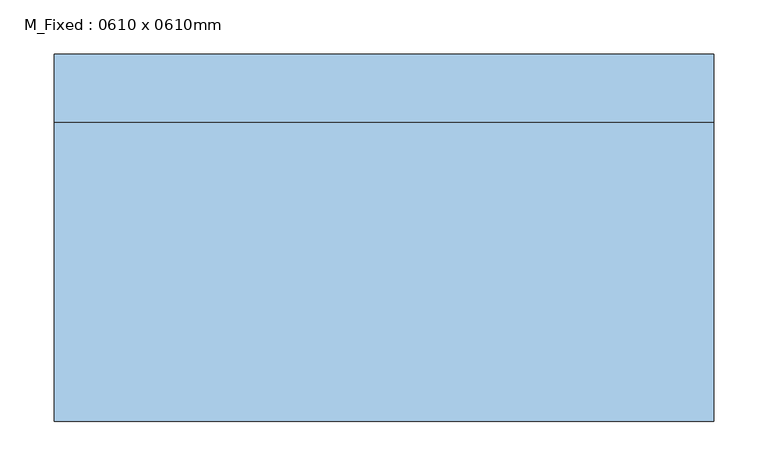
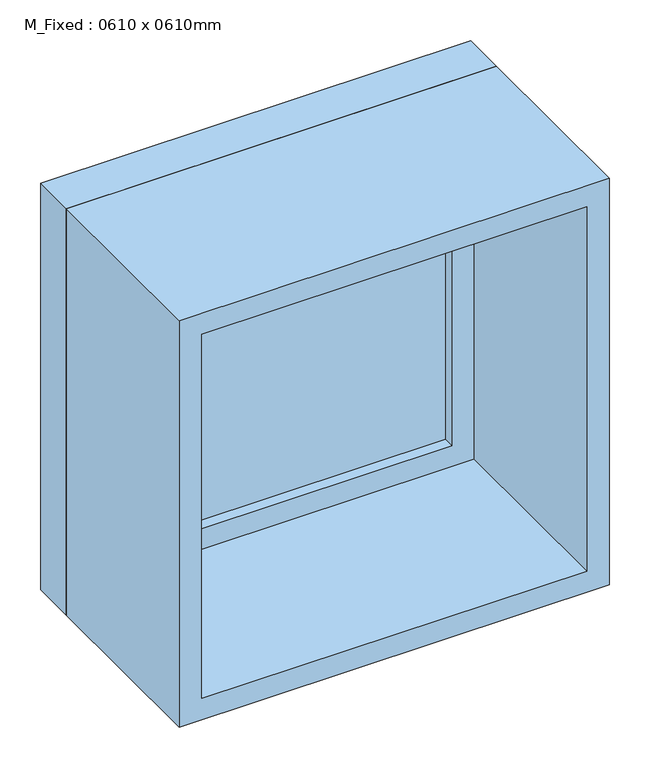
"""IFC4 building model written with IfcOpenShell, lengths in millimetres: window geometry, M_Fixed : 0610 x 0610mm."""

from ifc_helpers import new_model, si_unit, frame, origin, place, context, project, spatial, polyline, outline, extrude, source, transform, mapped, element, save


def m_fixed_0610_x_0610mm_aedfc229(model_context):
    return source(origin(), model_context, "Body", "SweptSolid", [
        extrude(outline(polyline([(-242.0, 148.0), (242.0, 148.0), (242.0, 136.0), (-242.0, 136.0), (-242.0, 148.0)])), frame((0.0, 0.0, 978.0), z_axis=(0.0, 0.0, 1.0), x_axis=(1.0, 0.0, 0.0)), (0.0, 0.0, 1.0), 484.0),
        extrude(outline(polyline([(1506.0, -286.0), (934.0, -286.0), (934.0, 286.0), (1506.0, 286.0), (1506.0, -286.0)]), holes=[polyline([(1462.0, -242.0), (1462.0, 242.0), (978.0, 242.0), (978.0, -242.0), (1462.0, -242.0)])]), frame((0.0, 120.0, 0.0), z_axis=(0.0, 1.0, 0.0), x_axis=(0.0, 0.0, 1.0)), (0.0, 0.0, 1.0), 44.0),
        extrude(outline(polyline([(1525.0, -305.0), (915.0, -305.0), (915.0, 305.0), (1525.0, 305.0), (1525.0, -305.0)]), holes=[polyline([(1506.0, -286.0), (1506.0, 286.0), (934.0, 286.0), (934.0, -286.0), (1506.0, -286.0)])]), frame((0.0, 120.0, 0.0), z_axis=(0.0, 1.0, 0.0), x_axis=(0.0, 0.0, 1.0)), (0.0, 0.0, 1.0), 63.0),
        extrude(outline(polyline([(1525.0, -305.0), (915.0, -305.0), (915.0, 305.0), (1525.0, 305.0), (1525.0, -305.0)]), holes=[polyline([(1493.0, -273.0), (1493.0, 273.0), (947.0, 273.0), (947.0, -273.0), (1493.0, -273.0)])]), frame((0.0, -157.0, 0.0), z_axis=(0.0, 1.0, 0.0), x_axis=(0.0, 0.0, 1.0)), (0.0, 0.0, 1.0), 277.0),
    ])


if __name__ == "__main__":
    model = new_model("IFC4")
    model_context = context("Model", 3, world=origin())
    ifc_project = project(units=[si_unit("LENGTHUNIT", "METRE", prefix="MILLI")], contexts=[model_context])
    site = spatial("IfcSite", under=ifc_project)
    building = spatial("IfcBuilding", under=site)
    placement = place(None, origin())
    m_fixed_0610_x_0610mm_shape = m_fixed_0610_x_0610mm_aedfc229(model_context)
    element("IfcWindow", 1, ObjectType="M_Fixed : 0610 x 0610mm", at=placement, inside=building, context=model_context, shape_type="MappedRepresentation", body=[
        mapped(m_fixed_0610_x_0610mm_shape, transform((0.0, 0.0, 0.0), x_axis=(1.0, 0.0, 0.0), y_axis=(0.0, 1.0, 0.0), z_axis=(0.0, 0.0, 1.0))),
    ])
    save(model, "model.ifc")
